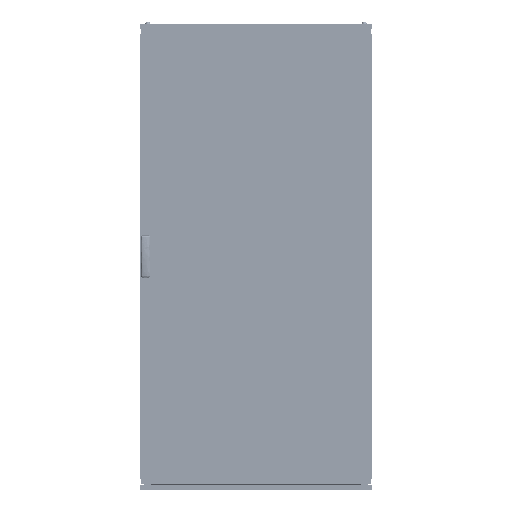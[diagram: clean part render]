
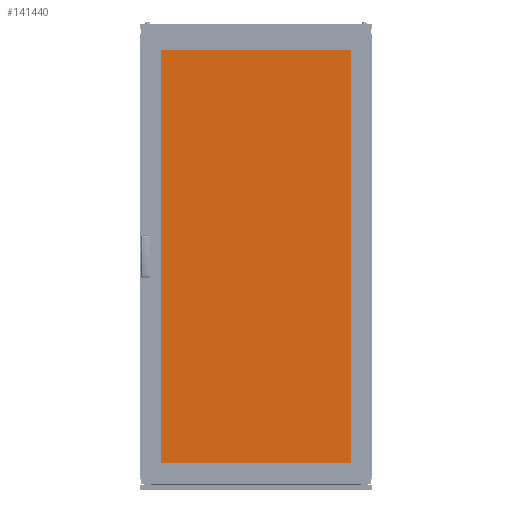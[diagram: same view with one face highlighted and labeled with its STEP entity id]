
A CAD part, top view. The second image highlights one B-rep face of the part: STEP entity #141440.
In plain terms, the highlighted planar face has unit normal (0, 0, 1).
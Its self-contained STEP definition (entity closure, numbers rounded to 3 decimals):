
#7890 = LINE ( 'NONE', #225618, #116927 ) ;
#14103 = EDGE_CURVE ( 'NONE', #15688, #186856, #7890, .T. ) ;
#15688 = VERTEX_POINT ( 'NONE', #99640 ) ;
#23490 = DIRECTION ( 'NONE',  ( -1., 0., 0. ) ) ;
#45411 = LINE ( 'NONE', #149583, #125296 ) ;
#50107 = EDGE_CURVE ( 'NONE', #186856, #190857, #211980, .T. ) ;
#63487 = DIRECTION ( 'NONE',  ( 0., 1., 0. ) ) ;
#68873 = EDGE_CURVE ( 'NONE', #190857, #226208, #70072, .T. ) ;
#70072 = LINE ( 'NONE', #87837, #83551 ) ;
#74718 = ORIENTED_EDGE ( 'NONE', *, *, #14103, .T. ) ;
#81637 = CARTESIAN_POINT ( 'NONE',  ( 430., 910., 5. ) ) ;
#83551 = VECTOR ( 'NONE', #138856, 1000. ) ;
#87837 = CARTESIAN_POINT ( 'NONE',  ( -430., -910., 5. ) ) ;
#92149 = DIRECTION ( 'NONE',  ( 0., 0., -1. ) ) ;
#94506 = FACE_OUTER_BOUND ( 'NONE', #185581, .T. ) ;
#99640 = CARTESIAN_POINT ( 'NONE',  ( 430., -910., 5. ) ) ;
#109549 = CARTESIAN_POINT ( 'NONE',  ( -430., 910., 5. ) ) ;
#111568 = AXIS2_PLACEMENT_3D ( 'NONE', #222337, #92149, #23490 ) ;
#116927 = VECTOR ( 'NONE', #63487, 1000. ) ;
#123617 = ORIENTED_EDGE ( 'NONE', *, *, #214814, .T. ) ;
#125296 = VECTOR ( 'NONE', #150785, 1000. ) ;
#137534 = CARTESIAN_POINT ( 'NONE',  ( -430., 910., 5. ) ) ;
#138856 = DIRECTION ( 'NONE',  ( 0., -1., 0. ) ) ;
#141440 = ADVANCED_FACE ( 'NONE', ( #94506 ), #150134, .F. ) ;
#149583 = CARTESIAN_POINT ( 'NONE',  ( -430., -910., 5. ) ) ;
#150134 = PLANE ( 'NONE',  #111568 ) ;
#150785 = DIRECTION ( 'NONE',  ( 1., 0., 0. ) ) ;
#156384 = DIRECTION ( 'NONE',  ( -1., 0., 0. ) ) ;
#185581 = EDGE_LOOP ( 'NONE', ( #74718, #189857, #209829, #123617 ) ) ;
#186856 = VERTEX_POINT ( 'NONE', #81637 ) ;
#189857 = ORIENTED_EDGE ( 'NONE', *, *, #50107, .T. ) ;
#190857 = VERTEX_POINT ( 'NONE', #109549 ) ;
#206242 = CARTESIAN_POINT ( 'NONE',  ( -430., -910., 5. ) ) ;
#209778 = VECTOR ( 'NONE', #156384, 1000. ) ;
#209829 = ORIENTED_EDGE ( 'NONE', *, *, #68873, .T. ) ;
#211980 = LINE ( 'NONE', #137534, #209778 ) ;
#214814 = EDGE_CURVE ( 'NONE', #226208, #15688, #45411, .T. ) ;
#222337 = CARTESIAN_POINT ( 'NONE',  ( 0., 0., 5. ) ) ;
#225618 = CARTESIAN_POINT ( 'NONE',  ( 430., -910., 5. ) ) ;
#226208 = VERTEX_POINT ( 'NONE', #206242 ) ;
